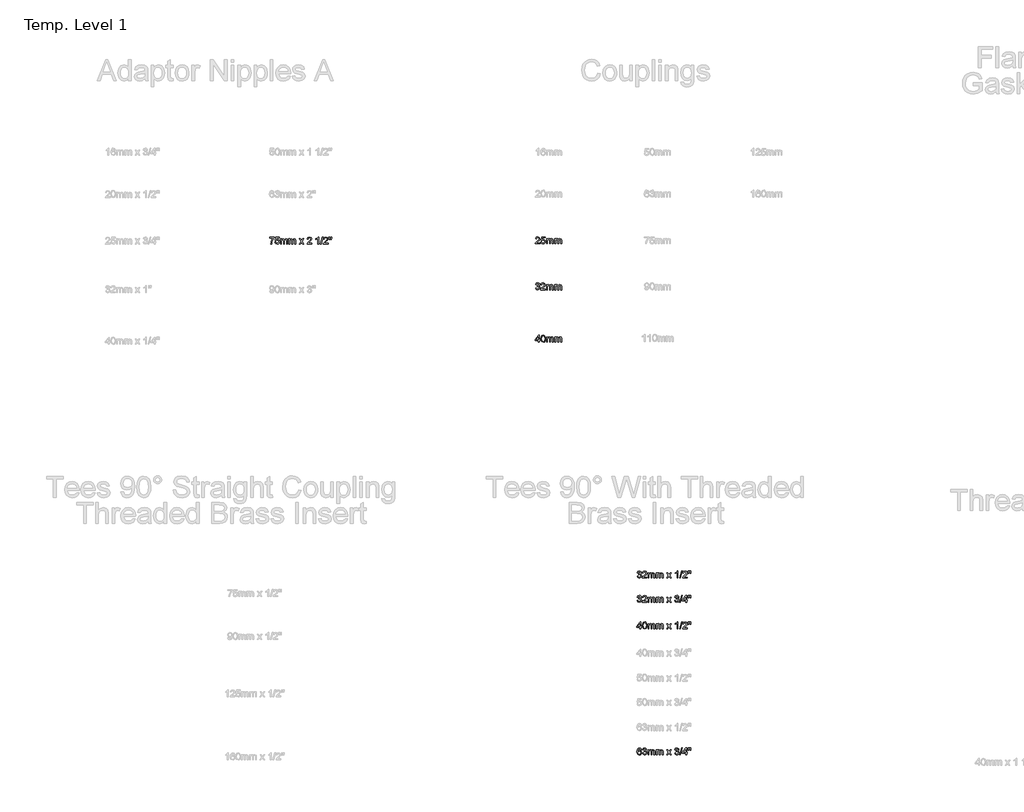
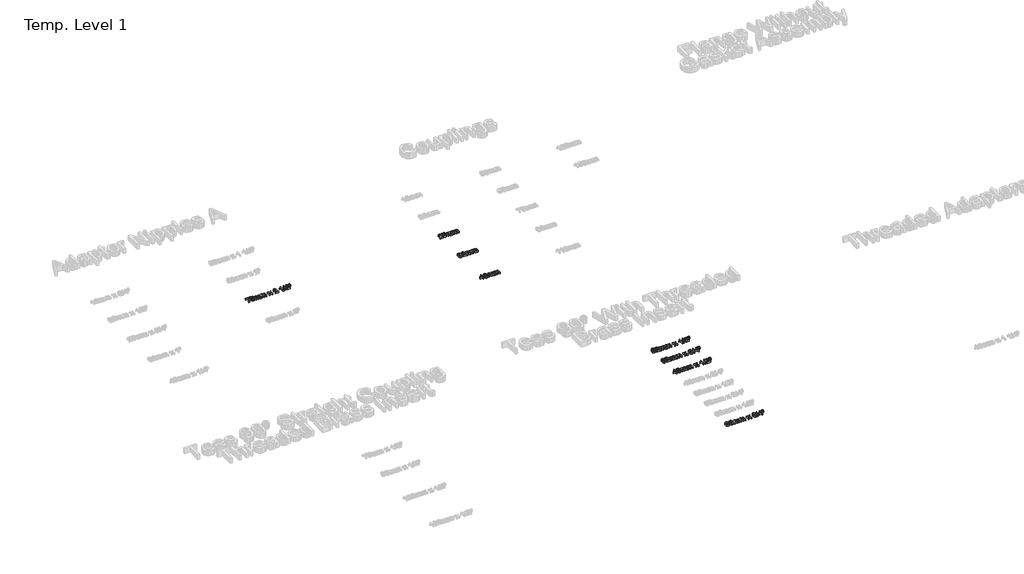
# One storey, part 18 of 62: 8 proxies.
"""IFC4 building model written with IfcOpenShell, lengths in millimetres."""

from ifc_helpers import new_model, si_unit, origin, origin_with_axes, place, context, project, spatial, polyline, outline, extrude, element, save

model = new_model("IFC4")

# Units and contexts
model_context = context("Model", 3, world=origin())
ifc_project = project(units=[si_unit("LENGTHUNIT", "METRE", prefix="MILLI")], contexts=[model_context])

# Site, building, storey
site = spatial("IfcSite", under=ifc_project)
building = spatial("IfcBuilding", under=site)
storey = spatial("IfcBuildingStorey", under=building, Name="Temp. Level 1", Elevation=0.0)

# Proxies
placement = place(None, origin())
element("IfcBuildingElementProxy", 1, Name="50mm Arial", ObjectType="50mm Arial", at=placement, inside=storey, context=model_context, shape_type="SweptSolid", body=[
    extrude(outline(polyline([(15795.8008487, -8167.8908247), (15795.8008487, -8161.7369786), (15828.108541, -8161.7369786), (15828.108541, -8166.7129401), (15818.9438775, -8179.9521228), (15811.9306564, -8196.8211132), (15809.6470025, -8210.198517), (15803.4931564, -8210.198517), (15805.9390698, -8196.3163055), (15812.6518102, -8180.6251997), (15821.9546948, -8167.8908247), (15795.8008487, -8167.8908247)])), origin_with_axes(), (0.0, 0.0, 1.0), 15.0),
    extrude(outline(polyline([(15833.4931564, -8197.1215939), (15839.6470025, -8196.3523632), (15842.7479641, -8202.6925074), (15849.1782525, -8204.8139016), (15856.8945987, -8201.8631805), (15859.6470025, -8194.0326516), (15857.0688775, -8186.7249593), (15849.2744064, -8184.0446709), (15843.8717621, -8185.1143824), (15840.4162333, -8187.8908247), (15834.2623871, -8187.1215939), (15839.6470025, -8161.7369786), (15863.4931564, -8161.7369786), (15863.4931564, -8167.8908247), (15844.6229641, -8167.8908247), (15841.9907525, -8181.448517), (15850.9931564, -8177.8908247), (15861.5159929, -8182.3018824), (15865.8008487, -8193.6480362), (15861.9426756, -8205.0663055), (15856.4018102, -8209.4923872), (15849.1542141, -8210.9677478), (15838.2948391, -8207.1756805), (15833.4931564, -8197.1215939)])), origin_with_axes(), (0.0, 0.0, 1.0), 15.0),
    extrude(outline(polyline([(15872.7239256, -8210.198517), (15872.7239256, -8174.0446709), (15878.8777718, -8174.0446709), (15878.8777718, -8179.9941901), (15883.108541, -8175.120392), (15889.1301756, -8173.2754401), (15895.296041, -8175.1564497), (15898.6854641, -8180.4268824), (15903.4871468, -8175.0633007), (15909.5508487, -8173.2754401), (15917.5977237, -8176.2501997), (15920.4162333, -8185.4148632), (15920.4162333, -8210.198517), (15914.2623871, -8210.198517), (15914.2623871, -8188.0590939), (15913.6914737, -8182.9208728), (15911.624166, -8180.3908247), (15908.108541, -8179.4292862), (15902.0568583, -8181.8932286), (15899.6470025, -8189.7898632), (15899.6470025, -8210.198517), (15893.4931564, -8210.198517), (15893.4931564, -8187.3739978), (15892.0688775, -8181.4124593), (15887.3994064, -8179.4292862), (15882.8441179, -8180.7514016), (15879.8152718, -8184.6215939), (15878.8777718, -8191.9653439), (15878.8777718, -8210.198517), (15872.7239256, -8210.198517)])), origin_with_axes(), (0.0, 0.0, 1.0), 15.0),
    extrude(outline(polyline([(15929.6470025, -8210.198517), (15929.6470025, -8174.0446709), (15935.8008487, -8174.0446709), (15935.8008487, -8179.9941901), (15940.0316179, -8175.120392), (15946.0532525, -8173.2754401), (15952.2191179, -8175.1564497), (15955.608541, -8180.4268824), (15960.4102237, -8175.0633007), (15966.4739256, -8173.2754401), (15974.5208006, -8176.2501997), (15977.3393102, -8185.4148632), (15977.3393102, -8210.198517), (15971.1854641, -8210.198517), (15971.1854641, -8188.0590939), (15970.6145506, -8182.9208728), (15968.5472429, -8180.3908247), (15965.0316179, -8179.4292862), (15958.9799352, -8181.8932286), (15956.5700795, -8189.7898632), (15956.5700795, -8210.198517), (15950.4162333, -8210.198517), (15950.4162333, -8187.3739978), (15948.9919545, -8181.4124593), (15944.3224833, -8179.4292862), (15939.7671948, -8180.7514016), (15936.7383487, -8184.6215939), (15935.8008487, -8191.9653439), (15935.8008487, -8210.198517), (15929.6470025, -8210.198517)])), origin_with_axes(), (0.0, 0.0, 1.0), 15.0),
    extrude(outline(polyline([(16001.9546948, -8210.198517), (16015.1037333, -8192.0254401), (16002.7239256, -8174.0446709), (16010.1277718, -8174.0446709), (16016.1013295, -8182.698517), (16018.889791, -8186.7850555), (16021.3056564, -8183.4437093), (16028.108541, -8174.0446709), (16035.5123871, -8174.0446709), (16022.5075795, -8192.0254401), (16035.0316179, -8210.198517), (16027.6277718, -8210.198517), (16020.0917141, -8199.2730362), (16018.7095025, -8197.2778439), (16009.358541, -8210.198517), (16001.9546948, -8210.198517)])), origin_with_axes(), (0.0, 0.0, 1.0), 15.0),
    extrude(outline(polyline([(16089.6470025, -8204.0446709), (16089.6470025, -8210.198517), (16057.3393102, -8210.198517), (16058.0003679, -8205.9557286), (16061.7383487, -8199.4232766), (16069.4426756, -8192.2898632), (16080.0676756, -8182.0374593), (16082.7239256, -8175.0663055), (16080.217916, -8169.4232766), (16073.6734448, -8167.1215939), (16066.8525314, -8169.3691901), (16064.2623871, -8175.5831324), (16058.108541, -8174.8139016), (16062.8260891, -8164.5134209), (16073.8056564, -8160.9677478), (16084.8212814, -8164.9100555), (16088.8777718, -8174.6937093), (16087.7840218, -8180.5290459), (16084.1482045, -8186.5626997), (16075.3320987, -8194.9941901), (16068.2527718, -8200.9136612), (16065.4763295, -8204.0446709), (16089.6470025, -8204.0446709)])), origin_with_axes(), (0.0, 0.0, 1.0), 15.0),
    extrude(outline(polyline([(16138.108541, -8210.198517), (16131.9546948, -8210.198517), (16131.9546948, -8171.8331324), (16126.1253679, -8175.9857766), (16119.6470025, -8179.0927478), (16119.6470025, -8173.2754401), (16128.6674352, -8167.5182286), (16134.1421948, -8160.9677478), (16138.108541, -8160.9677478), (16138.108541, -8210.198517)])), origin_with_axes(), (0.0, 0.0, 1.0), 15.0),
    extrude(outline(polyline([(16149.6470025, -8210.198517), (16163.4931564, -8160.9677478), (16169.046041, -8160.9677478), (16155.1998871, -8210.198517), (16149.6470025, -8210.198517)])), origin_with_axes(), (0.0, 0.0, 1.0), 15.0),
    extrude(outline(polyline([(16203.4931564, -8204.0446709), (16203.4931564, -8210.198517), (16171.1854641, -8210.198517), (16171.8465218, -8205.9557286), (16175.5845025, -8199.4232766), (16183.2888295, -8192.2898632), (16193.9138295, -8182.0374593), (16196.5700795, -8175.0663055), (16194.0640698, -8169.4232766), (16187.5195987, -8167.1215939), (16180.6986852, -8169.3691901), (16178.108541, -8175.5831324), (16171.9546948, -8174.8139016), (16176.6722429, -8164.5134209), (16187.6518102, -8160.9677478), (16198.6674352, -8164.9100555), (16202.7239256, -8174.6937093), (16201.6301756, -8180.5290459), (16197.9943583, -8186.5626997), (16189.1782525, -8194.9941901), (16182.0989256, -8200.9136612), (16179.3224833, -8204.0446709), (16203.4931564, -8204.0446709)])), origin_with_axes(), (0.0, 0.0, 1.0), 15.0),
    extrude(outline(polyline([(16223.421041, -8178.6600555), (16221.9546948, -8169.1528439), (16221.9546948, -8160.9677478), (16228.108541, -8160.9677478), (16228.108541, -8169.1528439), (16226.6662333, -8178.6600555), (16223.421041, -8178.6600555)])), origin_with_axes(), (0.0, 0.0, 1.0), 15.0),
    extrude(outline(polyline([(16211.1494064, -8178.6600555), (16209.6470025, -8169.1528439), (16209.6470025, -8160.9677478), (16215.8008487, -8160.9677478), (16215.8008487, -8169.1528439), (16214.4546948, -8178.6600555), (16211.1494064, -8178.6600555)])), origin_with_axes(), (0.0, 0.0, 1.0), 15.0),
])
element("IfcBuildingElementProxy", 2, Name="50mm Arial", ObjectType="50mm Arial", at=placement, inside=storey, context=model_context, shape_type="SweptSolid", body=[
    extrude(outline(polyline([(17682.7745802, -8202.9089258), (17682.7745802, -8209.0627719), (17650.4668879, -8209.0627719), (17651.1279456, -8204.8199835), (17654.8659263, -8198.2875315), (17662.5702533, -8191.1541181), (17673.1952533, -8180.9017142), (17675.8515033, -8173.9305604), (17673.3454936, -8168.2875315), (17666.8010225, -8165.9858488), (17659.980109, -8168.233445), (17657.3899648, -8174.4473873), (17651.2361186, -8173.6781565), (17655.9536667, -8163.3776758), (17666.933234, -8159.8320027), (17677.948859, -8163.7743104), (17682.0053494, -8173.5579642), (17680.9115994, -8179.3933008), (17677.2757821, -8185.4269546), (17668.4596763, -8193.858445), (17661.3803494, -8199.7779161), (17658.6039071, -8202.9089258), (17682.7745802, -8202.9089258)])), origin_with_axes(), (0.0, 0.0, 1.0), 15.0),
    extrude(outline(polyline([(17688.9284263, -8195.9858488), (17695.0822725, -8195.2166181), (17698.183234, -8201.5567623), (17704.6135225, -8203.6781565), (17712.3298686, -8200.7274354), (17715.0822725, -8192.8969065), (17712.5041475, -8185.5892142), (17704.7096763, -8182.9089258), (17699.3070321, -8183.9786373), (17695.8515033, -8186.7550796), (17689.6976571, -8185.9858488), (17695.0822725, -8160.6012335), (17718.9284263, -8160.6012335), (17718.9284263, -8166.7550796), (17700.058234, -8166.7550796), (17697.4260225, -8180.3127719), (17706.4284263, -8176.7550796), (17716.9512629, -8181.1661373), (17721.2361186, -8192.5122911), (17717.3779456, -8203.9305604), (17711.8370802, -8208.3566421), (17704.589484, -8209.8320027), (17693.730109, -8206.0399354), (17688.9284263, -8195.9858488)])), origin_with_axes(), (0.0, 0.0, 1.0), 15.0),
    extrude(outline(polyline([(17728.1591956, -8209.0627719), (17728.1591956, -8172.9089258), (17734.3130417, -8172.9089258), (17734.3130417, -8178.858445), (17738.5438109, -8173.9846469), (17744.5654456, -8172.139695), (17750.7313109, -8174.0207046), (17754.120734, -8179.2911373), (17758.9224167, -8173.9275556), (17764.9861186, -8172.139695), (17773.0329936, -8175.1144546), (17775.8515033, -8184.2791181), (17775.8515033, -8209.0627719), (17769.6976571, -8209.0627719), (17769.6976571, -8186.9233488), (17769.1267436, -8181.7851277), (17767.0594359, -8179.2550796), (17763.5438109, -8178.2935411), (17757.4921283, -8180.7574835), (17755.0822725, -8188.6541181), (17755.0822725, -8209.0627719), (17748.9284263, -8209.0627719), (17748.9284263, -8186.2382527), (17747.5041475, -8180.2767142), (17742.8346763, -8178.2935411), (17738.2793879, -8179.6156565), (17735.2505417, -8183.4858488), (17734.3130417, -8190.8295988), (17734.3130417, -8209.0627719), (17728.1591956, -8209.0627719)])), origin_with_axes(), (0.0, 0.0, 1.0), 15.0),
    extrude(outline(polyline([(17785.0822725, -8209.0627719), (17785.0822725, -8172.9089258), (17791.2361186, -8172.9089258), (17791.2361186, -8178.858445), (17795.4668879, -8173.9846469), (17801.4885225, -8172.139695), (17807.6543879, -8174.0207046), (17811.0438109, -8179.2911373), (17815.8454936, -8173.9275556), (17821.9091956, -8172.139695), (17829.9560706, -8175.1144546), (17832.7745802, -8184.2791181), (17832.7745802, -8209.0627719), (17826.620734, -8209.0627719), (17826.620734, -8186.9233488), (17826.0498206, -8181.7851277), (17823.9825129, -8179.2550796), (17820.4668879, -8178.2935411), (17814.4152052, -8180.7574835), (17812.0053494, -8188.6541181), (17812.0053494, -8209.0627719), (17805.8515033, -8209.0627719), (17805.8515033, -8186.2382527), (17804.4272244, -8180.2767142), (17799.7577533, -8178.2935411), (17795.2024648, -8179.6156565), (17792.1736186, -8183.4858488), (17791.2361186, -8190.8295988), (17791.2361186, -8209.0627719), (17785.0822725, -8209.0627719)])), origin_with_axes(), (0.0, 0.0, 1.0), 15.0),
])
element("IfcBuildingElementProxy", 3, Name="50mm Arial", ObjectType="50mm Arial", at=placement, inside=storey, context=model_context, shape_type="SweptSolid", body=[
    extrude(outline(polyline([(17651.2361186, -8517.1215939), (17657.3899648, -8516.3523632), (17660.7853975, -8522.8307286), (17667.1375609, -8524.8139016), (17674.6135225, -8522.0855362), (17677.3899648, -8515.3307286), (17674.6375609, -8508.9665459), (17667.6423686, -8506.448517), (17663.3274648, -8507.1215939), (17664.0125609, -8500.9677478), (17671.9813109, -8499.2730362), (17675.0822725, -8493.8403439), (17672.8346763, -8489.026642), (17667.0414071, -8487.1215939), (17661.1760225, -8489.0446709), (17658.1591956, -8494.8139016), (17652.0053494, -8494.0446709), (17657.0414071, -8484.3932286), (17666.8250609, -8480.9677478), (17674.2469359, -8482.6564497), (17679.4392436, -8487.2718343), (17681.2361186, -8493.479767), (17679.5293879, -8499.1528439), (17674.4813109, -8503.2273632), (17681.1880417, -8507.4340939), (17683.5438109, -8515.4389016), (17678.8322725, -8526.448517), (17666.9212148, -8530.9677478), (17656.1279456, -8527.1095747), (17651.2361186, -8517.1215939)])), origin_with_axes(), (0.0, 0.0, 1.0), 15.0),
    extrude(outline(polyline([(17720.4668879, -8524.0446709), (17720.4668879, -8530.198517), (17688.1591956, -8530.198517), (17688.8202533, -8525.9557286), (17692.558234, -8519.4232766), (17700.2625609, -8512.2898632), (17710.8875609, -8502.0374593), (17713.5438109, -8495.0663055), (17711.0378013, -8489.4232766), (17704.4933302, -8487.1215939), (17697.6724167, -8489.3691901), (17695.0822725, -8495.5831324), (17688.9284263, -8494.8139016), (17693.6459744, -8484.5134209), (17704.6255417, -8480.9677478), (17715.6411667, -8484.9100555), (17719.6976571, -8494.6937093), (17718.6039071, -8500.5290459), (17714.9680898, -8506.5626997), (17706.151984, -8514.9941901), (17699.0726571, -8520.9136612), (17696.2962148, -8524.0446709), (17720.4668879, -8524.0446709)])), origin_with_axes(), (0.0, 0.0, 1.0), 15.0),
    extrude(outline(polyline([(17728.1591956, -8530.198517), (17728.1591956, -8494.0446709), (17734.3130417, -8494.0446709), (17734.3130417, -8499.9941901), (17738.5438109, -8495.120392), (17744.5654456, -8493.2754401), (17750.7313109, -8495.1564497), (17754.120734, -8500.4268824), (17758.9224167, -8495.0633007), (17764.9861186, -8493.2754401), (17773.0329936, -8496.2501997), (17775.8515033, -8505.4148632), (17775.8515033, -8530.198517), (17769.6976571, -8530.198517), (17769.6976571, -8508.0590939), (17769.1267436, -8502.9208728), (17767.0594359, -8500.3908247), (17763.5438109, -8499.4292862), (17757.4921283, -8501.8932286), (17755.0822725, -8509.7898632), (17755.0822725, -8530.198517), (17748.9284263, -8530.198517), (17748.9284263, -8507.3739978), (17747.5041475, -8501.4124593), (17742.8346763, -8499.4292862), (17738.2793879, -8500.7514016), (17735.2505417, -8504.6215939), (17734.3130417, -8511.9653439), (17734.3130417, -8530.198517), (17728.1591956, -8530.198517)])), origin_with_axes(), (0.0, 0.0, 1.0), 15.0),
    extrude(outline(polyline([(17785.0822725, -8530.198517), (17785.0822725, -8494.0446709), (17791.2361186, -8494.0446709), (17791.2361186, -8499.9941901), (17795.4668879, -8495.120392), (17801.4885225, -8493.2754401), (17807.6543879, -8495.1564497), (17811.0438109, -8500.4268824), (17815.8454936, -8495.0633007), (17821.9091956, -8493.2754401), (17829.9560706, -8496.2501997), (17832.7745802, -8505.4148632), (17832.7745802, -8530.198517), (17826.620734, -8530.198517), (17826.620734, -8508.0590939), (17826.0498206, -8502.9208728), (17823.9825129, -8500.3908247), (17820.4668879, -8499.4292862), (17814.4152052, -8501.8932286), (17812.0053494, -8509.7898632), (17812.0053494, -8530.198517), (17805.8515033, -8530.198517), (17805.8515033, -8507.3739978), (17804.4272244, -8501.4124593), (17799.7577533, -8499.4292862), (17795.2024648, -8500.7514016), (17792.1736186, -8504.6215939), (17791.2361186, -8511.9653439), (17791.2361186, -8530.198517), (17785.0822725, -8530.198517)])), origin_with_axes(), (0.0, 0.0, 1.0), 15.0),
])
element("IfcBuildingElementProxy", 4, Name="50mm Arial", ObjectType="50mm Arial", at=placement, inside=storey, context=model_context, shape_type="SweptSolid", body=[
    extrude(outline(polyline([(17671.2361186, -8895.198517), (17671.2361186, -8883.6600555), (17648.9284263, -8883.6600555), (17648.9284263, -8877.5062093), (17672.7745802, -8846.7369786), (17677.3899648, -8846.7369786), (17677.3899648, -8877.5062093), (17683.5438109, -8877.5062093), (17683.5438109, -8883.6600555), (17677.3899648, -8883.6600555), (17677.3899648, -8895.198517), (17671.2361186, -8895.198517)]), holes=[polyline([(17671.2361186, -8877.5062093), (17671.2361186, -8858.4917862), (17656.5005417, -8877.5062093), (17671.2361186, -8877.5062093)])]), origin_with_axes(), (0.0, 0.0, 1.0), 15.0),
    extrude(outline(polyline([(17688.9284263, -8870.979767), (17690.7373206, -8856.8151036), (17696.1099167, -8848.6480362), (17705.0822725, -8845.9677478), (17712.2697725, -8847.5542862), (17717.2337148, -8852.1276036), (17720.1183302, -8859.4112574), (17721.2361186, -8870.979767), (17719.4452533, -8885.0843343), (17714.0906859, -8893.2694305), (17705.0822725, -8895.9677478), (17693.8322725, -8891.2802478), (17690.1543879, -8882.9539257), (17688.9284263, -8870.979767)]), holes=[polyline([(17695.0822725, -8870.9677478), (17697.9668879, -8886.2501997), (17705.0822725, -8889.8139016), (17712.1976571, -8886.2381805), (17715.0822725, -8870.9677478), (17712.2938109, -8855.8595747), (17705.0101571, -8852.1215939), (17698.0630417, -8855.4148632), (17695.0822725, -8870.9677478)])]), origin_with_axes(), (0.0, 0.0, 1.0), 15.0),
    extrude(outline(polyline([(17728.1591956, -8895.198517), (17728.1591956, -8859.0446709), (17734.3130417, -8859.0446709), (17734.3130417, -8864.9941901), (17738.5438109, -8860.120392), (17744.5654456, -8858.2754401), (17750.7313109, -8860.1564497), (17754.120734, -8865.4268824), (17758.9224167, -8860.0633007), (17764.9861186, -8858.2754401), (17773.0329936, -8861.2501997), (17775.8515033, -8870.4148632), (17775.8515033, -8895.198517), (17769.6976571, -8895.198517), (17769.6976571, -8873.0590939), (17769.1267436, -8867.9208728), (17767.0594359, -8865.3908247), (17763.5438109, -8864.4292862), (17757.4921283, -8866.8932286), (17755.0822725, -8874.7898632), (17755.0822725, -8895.198517), (17748.9284263, -8895.198517), (17748.9284263, -8872.3739978), (17747.5041475, -8866.4124593), (17742.8346763, -8864.4292862), (17738.2793879, -8865.7514016), (17735.2505417, -8869.6215939), (17734.3130417, -8876.9653439), (17734.3130417, -8895.198517), (17728.1591956, -8895.198517)])), origin_with_axes(), (0.0, 0.0, 1.0), 15.0),
    extrude(outline(polyline([(17785.0822725, -8895.198517), (17785.0822725, -8859.0446709), (17791.2361186, -8859.0446709), (17791.2361186, -8864.9941901), (17795.4668879, -8860.120392), (17801.4885225, -8858.2754401), (17807.6543879, -8860.1564497), (17811.0438109, -8865.4268824), (17815.8454936, -8860.0633007), (17821.9091956, -8858.2754401), (17829.9560706, -8861.2501997), (17832.7745802, -8870.4148632), (17832.7745802, -8895.198517), (17826.620734, -8895.198517), (17826.620734, -8873.0590939), (17826.0498206, -8867.9208728), (17823.9825129, -8865.3908247), (17820.4668879, -8864.4292862), (17814.4152052, -8866.8932286), (17812.0053494, -8874.7898632), (17812.0053494, -8895.198517), (17805.8515033, -8895.198517), (17805.8515033, -8872.3739978), (17804.4272244, -8866.4124593), (17799.7577533, -8864.4292862), (17795.2024648, -8865.7514016), (17792.1736186, -8869.6215939), (17791.2361186, -8876.9653439), (17791.2361186, -8895.198517), (17785.0822725, -8895.198517)])), origin_with_axes(), (0.0, 0.0, 1.0), 15.0),
])
element("IfcBuildingElementProxy", 5, Name="50mm Arial", ObjectType="50mm Arial", at=placement, inside=storey, context=model_context, shape_type="SweptSolid", body=[
    extrude(outline(polyline([(18359.5497295, -10529.2249519), (18365.7035757, -10528.4557211), (18369.0990084, -10534.9340865), (18375.4511718, -10536.9172596), (18382.9271334, -10534.1888942), (18385.7035757, -10527.4340865), (18382.9511718, -10521.0699038), (18375.9559795, -10518.551875), (18371.6410757, -10519.2249519), (18372.3261718, -10513.0711057), (18380.2949218, -10511.3763942), (18383.3958834, -10505.9437019), (18381.1482872, -10501.13), (18375.355018, -10499.2249519), (18369.4896334, -10501.1480288), (18366.4728064, -10506.9172596), (18360.3189603, -10506.1480288), (18365.355018, -10496.4965865), (18375.1386718, -10493.0711057), (18382.5605468, -10494.7598077), (18387.7528545, -10499.3751923), (18389.5497295, -10505.583125), (18387.8429987, -10511.2562019), (18382.7949218, -10515.3307211), (18389.5016526, -10519.5374519), (18391.8574218, -10527.5422596), (18387.1458834, -10538.551875), (18375.2348257, -10543.0711057), (18364.4415564, -10539.2129327), (18359.5497295, -10529.2249519)])), origin_with_axes(), (0.0, 0.0, 1.0), 15.0),
    extrude(outline(polyline([(18428.7804987, -10536.1480288), (18428.7804987, -10542.301875), (18396.4728064, -10542.301875), (18397.1338641, -10538.0590865), (18400.8718449, -10531.5266346), (18408.5761718, -10524.3932211), (18419.2011718, -10514.1408173), (18421.8574218, -10507.1696634), (18419.3514122, -10501.5266346), (18412.8069411, -10499.2249519), (18405.9860276, -10501.4725481), (18403.3958834, -10507.6864904), (18397.2420372, -10506.9172596), (18401.9595853, -10496.6167788), (18412.9391526, -10493.0711057), (18423.9547776, -10497.0134134), (18428.011268, -10506.7970673), (18426.917518, -10512.6324038), (18423.2817007, -10518.6660577), (18414.4655949, -10527.0975481), (18407.386268, -10533.0170192), (18404.6098257, -10536.1480288), (18428.7804987, -10536.1480288)])), origin_with_axes(), (0.0, 0.0, 1.0), 15.0),
    extrude(outline(polyline([(18436.4728064, -10542.301875), (18436.4728064, -10506.1480288), (18442.6266526, -10506.1480288), (18442.6266526, -10512.0975481), (18446.8574218, -10507.22375), (18452.8790564, -10505.3787981), (18459.0449218, -10507.2598077), (18462.4343449, -10512.5302404), (18467.2360276, -10507.1666586), (18473.2997295, -10505.3787981), (18481.3466045, -10508.3535577), (18484.1651141, -10517.5182211), (18484.1651141, -10542.301875), (18478.011268, -10542.301875), (18478.011268, -10520.1624519), (18477.4403545, -10515.0242307), (18475.3730468, -10512.4941827), (18471.8574218, -10511.5326442), (18465.8057391, -10513.9965865), (18463.3958834, -10521.8932211), (18463.3958834, -10542.301875), (18457.2420372, -10542.301875), (18457.2420372, -10519.4773557), (18455.8177584, -10513.5158173), (18451.1482872, -10511.5326442), (18446.5929987, -10512.8547596), (18443.5641526, -10516.7249519), (18442.6266526, -10524.0687019), (18442.6266526, -10542.301875), (18436.4728064, -10542.301875)])), origin_with_axes(), (0.0, 0.0, 1.0), 15.0),
    extrude(outline(polyline([(18493.3958834, -10542.301875), (18493.3958834, -10506.1480288), (18499.5497295, -10506.1480288), (18499.5497295, -10512.0975481), (18503.7804987, -10507.22375), (18509.8021334, -10505.3787981), (18515.9679987, -10507.2598077), (18519.3574218, -10512.5302404), (18524.1591045, -10507.1666586), (18530.2228064, -10505.3787981), (18538.2696814, -10508.3535577), (18541.0881911, -10517.5182211), (18541.0881911, -10542.301875), (18534.9343449, -10542.301875), (18534.9343449, -10520.1624519), (18534.3634314, -10515.0242307), (18532.2961237, -10512.4941827), (18528.7804987, -10511.5326442), (18522.7288161, -10513.9965865), (18520.3189603, -10521.8932211), (18520.3189603, -10542.301875), (18514.1651141, -10542.301875), (18514.1651141, -10519.4773557), (18512.7408353, -10513.5158173), (18508.0713641, -10511.5326442), (18503.5160757, -10512.8547596), (18500.4872295, -10516.7249519), (18499.5497295, -10524.0687019), (18499.5497295, -10542.301875), (18493.3958834, -10542.301875)])), origin_with_axes(), (0.0, 0.0, 1.0), 15.0),
    extrude(outline(polyline([(18565.7035757, -10542.301875), (18578.8526141, -10524.1287981), (18566.4728064, -10506.1480288), (18573.8766526, -10506.1480288), (18579.8502103, -10514.801875), (18582.6386718, -10518.8884134), (18585.0545372, -10515.5470673), (18591.8574218, -10506.1480288), (18599.261268, -10506.1480288), (18586.2564603, -10524.1287981), (18598.7804987, -10542.301875), (18591.3766526, -10542.301875), (18583.8405949, -10531.3763942), (18582.4583834, -10529.3812019), (18573.1074218, -10542.301875), (18565.7035757, -10542.301875)])), origin_with_axes(), (0.0, 0.0, 1.0), 15.0),
    extrude(outline(polyline([(18644.9343449, -10542.301875), (18638.7804987, -10542.301875), (18638.7804987, -10503.9364904), (18632.9511718, -10508.0891346), (18626.4728064, -10511.1961057), (18626.4728064, -10505.3787981), (18635.4932391, -10499.6215865), (18640.9679987, -10493.0711057), (18644.9343449, -10493.0711057), (18644.9343449, -10542.301875)])), origin_with_axes(), (0.0, 0.0, 1.0), 15.0),
    extrude(outline(polyline([(18656.4728064, -10542.301875), (18670.3189603, -10493.0711057), (18675.8718449, -10493.0711057), (18662.0256911, -10542.301875), (18656.4728064, -10542.301875)])), origin_with_axes(), (0.0, 0.0, 1.0), 15.0),
    extrude(outline(polyline([(18710.3189603, -10536.1480288), (18710.3189603, -10542.301875), (18678.011268, -10542.301875), (18678.6723257, -10538.0590865), (18682.4103064, -10531.5266346), (18690.1146334, -10524.3932211), (18700.7396334, -10514.1408173), (18703.3958834, -10507.1696634), (18700.8898737, -10501.5266346), (18694.3454026, -10499.2249519), (18687.5244891, -10501.4725481), (18684.9343449, -10507.6864904), (18678.7804987, -10506.9172596), (18683.4980468, -10496.6167788), (18694.4776141, -10493.0711057), (18705.4932391, -10497.0134134), (18709.5497295, -10506.7970673), (18708.4559795, -10512.6324038), (18704.8201622, -10518.6660577), (18696.0040564, -10527.0975481), (18688.9247295, -10533.0170192), (18686.1482872, -10536.1480288), (18710.3189603, -10536.1480288)])), origin_with_axes(), (0.0, 0.0, 1.0), 15.0),
    extrude(outline(polyline([(18730.2468449, -10510.7634134), (18728.7804987, -10501.2562019), (18728.7804987, -10493.0711057), (18734.9343449, -10493.0711057), (18734.9343449, -10501.2562019), (18733.4920372, -10510.7634134), (18730.2468449, -10510.7634134)])), origin_with_axes(), (0.0, 0.0, 1.0), 15.0),
    extrude(outline(polyline([(18717.9752103, -10510.7634134), (18716.4728064, -10501.2562019), (18716.4728064, -10493.0711057), (18722.6266526, -10493.0711057), (18722.6266526, -10501.2562019), (18721.2804987, -10510.7634134), (18717.9752103, -10510.7634134)])), origin_with_axes(), (0.0, 0.0, 1.0), 15.0),
])
element("IfcBuildingElementProxy", 6, Name="50mm Arial", ObjectType="50mm Arial", at=placement, inside=storey, context=model_context, shape_type="SweptSolid", body=[
    extrude(outline(polyline([(18359.5497295, -10699.2249519), (18365.7035757, -10698.4557211), (18369.0990084, -10704.9340865), (18375.4511718, -10706.9172596), (18382.9271334, -10704.1888942), (18385.7035757, -10697.4340865), (18382.9511718, -10691.0699038), (18375.9559795, -10688.551875), (18371.6410757, -10689.2249519), (18372.3261718, -10683.0711057), (18380.2949218, -10681.3763942), (18383.3958834, -10675.9437019), (18381.1482872, -10671.13), (18375.355018, -10669.2249519), (18369.4896334, -10671.1480288), (18366.4728064, -10676.9172596), (18360.3189603, -10676.1480288), (18365.355018, -10666.4965865), (18375.1386718, -10663.0711057), (18382.5605468, -10664.7598077), (18387.7528545, -10669.3751923), (18389.5497295, -10675.583125), (18387.8429987, -10681.2562019), (18382.7949218, -10685.3307211), (18389.5016526, -10689.5374519), (18391.8574218, -10697.5422596), (18387.1458834, -10708.551875), (18375.2348257, -10713.0711057), (18364.4415564, -10709.2129327), (18359.5497295, -10699.2249519)])), origin_with_axes(), (0.0, 0.0, 1.0), 15.0),
    extrude(outline(polyline([(18428.7804987, -10706.1480288), (18428.7804987, -10712.301875), (18396.4728064, -10712.301875), (18397.1338641, -10708.0590865), (18400.8718449, -10701.5266346), (18408.5761718, -10694.3932211), (18419.2011718, -10684.1408173), (18421.8574218, -10677.1696634), (18419.3514122, -10671.5266346), (18412.8069411, -10669.2249519), (18405.9860276, -10671.4725481), (18403.3958834, -10677.6864904), (18397.2420372, -10676.9172596), (18401.9595853, -10666.6167788), (18412.9391526, -10663.0711057), (18423.9547776, -10667.0134134), (18428.011268, -10676.7970673), (18426.917518, -10682.6324038), (18423.2817007, -10688.6660577), (18414.4655949, -10697.0975481), (18407.386268, -10703.0170192), (18404.6098257, -10706.1480288), (18428.7804987, -10706.1480288)])), origin_with_axes(), (0.0, 0.0, 1.0), 15.0),
    extrude(outline(polyline([(18436.4728064, -10712.301875), (18436.4728064, -10676.1480288), (18442.6266526, -10676.1480288), (18442.6266526, -10682.0975481), (18446.8574218, -10677.22375), (18452.8790564, -10675.3787981), (18459.0449218, -10677.2598077), (18462.4343449, -10682.5302404), (18467.2360276, -10677.1666586), (18473.2997295, -10675.3787981), (18481.3466045, -10678.3535577), (18484.1651141, -10687.5182211), (18484.1651141, -10712.301875), (18478.011268, -10712.301875), (18478.011268, -10690.1624519), (18477.4403545, -10685.0242307), (18475.3730468, -10682.4941827), (18471.8574218, -10681.5326442), (18465.8057391, -10683.9965865), (18463.3958834, -10691.8932211), (18463.3958834, -10712.301875), (18457.2420372, -10712.301875), (18457.2420372, -10689.4773557), (18455.8177584, -10683.5158173), (18451.1482872, -10681.5326442), (18446.5929987, -10682.8547596), (18443.5641526, -10686.7249519), (18442.6266526, -10694.0687019), (18442.6266526, -10712.301875), (18436.4728064, -10712.301875)])), origin_with_axes(), (0.0, 0.0, 1.0), 15.0),
    extrude(outline(polyline([(18493.3958834, -10712.301875), (18493.3958834, -10676.1480288), (18499.5497295, -10676.1480288), (18499.5497295, -10682.0975481), (18503.7804987, -10677.22375), (18509.8021334, -10675.3787981), (18515.9679987, -10677.2598077), (18519.3574218, -10682.5302404), (18524.1591045, -10677.1666586), (18530.2228064, -10675.3787981), (18538.2696814, -10678.3535577), (18541.0881911, -10687.5182211), (18541.0881911, -10712.301875), (18534.9343449, -10712.301875), (18534.9343449, -10690.1624519), (18534.3634314, -10685.0242307), (18532.2961237, -10682.4941827), (18528.7804987, -10681.5326442), (18522.7288161, -10683.9965865), (18520.3189603, -10691.8932211), (18520.3189603, -10712.301875), (18514.1651141, -10712.301875), (18514.1651141, -10689.4773557), (18512.7408353, -10683.5158173), (18508.0713641, -10681.5326442), (18503.5160757, -10682.8547596), (18500.4872295, -10686.7249519), (18499.5497295, -10694.0687019), (18499.5497295, -10712.301875), (18493.3958834, -10712.301875)])), origin_with_axes(), (0.0, 0.0, 1.0), 15.0),
    extrude(outline(polyline([(18565.7035757, -10712.301875), (18578.8526141, -10694.1287981), (18566.4728064, -10676.1480288), (18573.8766526, -10676.1480288), (18579.8502103, -10684.801875), (18582.6386718, -10688.8884134), (18585.0545372, -10685.5470673), (18591.8574218, -10676.1480288), (18599.261268, -10676.1480288), (18586.2564603, -10694.1287981), (18598.7804987, -10712.301875), (18591.3766526, -10712.301875), (18583.8405949, -10701.3763942), (18582.4583834, -10699.3812019), (18573.1074218, -10712.301875), (18565.7035757, -10712.301875)])), origin_with_axes(), (0.0, 0.0, 1.0), 15.0),
    extrude(outline(polyline([(18621.8574218, -10699.2249519), (18628.011268, -10698.4557211), (18631.4067007, -10704.9340865), (18637.7588641, -10706.9172596), (18645.2348257, -10704.1888942), (18648.011268, -10697.4340865), (18645.2588641, -10691.0699038), (18638.2636718, -10688.551875), (18633.948768, -10689.2249519), (18634.6338641, -10683.0711057), (18642.6026141, -10681.3763942), (18645.7035757, -10675.9437019), (18643.4559795, -10671.13), (18637.6627103, -10669.2249519), (18631.7973257, -10671.1480288), (18628.7804987, -10676.9172596), (18622.6266526, -10676.1480288), (18627.6627103, -10666.4965865), (18637.4463641, -10663.0711057), (18644.8682391, -10664.7598077), (18650.0605468, -10669.3751923), (18651.8574218, -10675.583125), (18650.1506911, -10681.2562019), (18645.1026141, -10685.3307211), (18651.8093449, -10689.5374519), (18654.1651141, -10697.5422596), (18649.4535757, -10708.551875), (18637.542518, -10713.0711057), (18626.7492487, -10709.2129327), (18621.8574218, -10699.2249519)])), origin_with_axes(), (0.0, 0.0, 1.0), 15.0),
    extrude(outline(polyline([(18656.4728064, -10712.301875), (18670.3189603, -10663.0711057), (18675.8718449, -10663.0711057), (18662.0256911, -10712.301875), (18656.4728064, -10712.301875)])), origin_with_axes(), (0.0, 0.0, 1.0), 15.0),
    extrude(outline(polyline([(18698.7804987, -10712.301875), (18698.7804987, -10700.7634134), (18676.4728064, -10700.7634134), (18676.4728064, -10694.6095673), (18700.3189603, -10663.8403365), (18704.9343449, -10663.8403365), (18704.9343449, -10694.6095673), (18711.0881911, -10694.6095673), (18711.0881911, -10700.7634134), (18704.9343449, -10700.7634134), (18704.9343449, -10712.301875), (18698.7804987, -10712.301875)]), holes=[polyline([(18698.7804987, -10694.6095673), (18698.7804987, -10675.5951442), (18684.0449218, -10694.6095673), (18698.7804987, -10694.6095673)])]), origin_with_axes(), (0.0, 0.0, 1.0), 15.0),
    extrude(outline(polyline([(18730.2468449, -10680.7634134), (18728.7804987, -10671.2562019), (18728.7804987, -10663.0711057), (18734.9343449, -10663.0711057), (18734.9343449, -10671.2562019), (18733.4920372, -10680.7634134), (18730.2468449, -10680.7634134)])), origin_with_axes(), (0.0, 0.0, 1.0), 15.0),
    extrude(outline(polyline([(18717.9752103, -10680.7634134), (18716.4728064, -10671.2562019), (18716.4728064, -10663.0711057), (18722.6266526, -10663.0711057), (18722.6266526, -10671.2562019), (18721.2804987, -10680.7634134), (18717.9752103, -10680.7634134)])), origin_with_axes(), (0.0, 0.0, 1.0), 15.0),
])
element("IfcBuildingElementProxy", 7, Name="50mm Arial", ObjectType="50mm Arial", at=placement, inside=storey, context=model_context, shape_type="SweptSolid", body=[
    extrude(outline(polyline([(18379.5497295, -10897.301875), (18379.5497295, -10885.7634134), (18357.2420372, -10885.7634134), (18357.2420372, -10879.6095673), (18381.0881911, -10848.8403365), (18385.7035757, -10848.8403365), (18385.7035757, -10879.6095673), (18391.8574218, -10879.6095673), (18391.8574218, -10885.7634134), (18385.7035757, -10885.7634134), (18385.7035757, -10897.301875), (18379.5497295, -10897.301875)]), holes=[polyline([(18379.5497295, -10879.6095673), (18379.5497295, -10860.5951442), (18364.8141526, -10879.6095673), (18379.5497295, -10879.6095673)])]), origin_with_axes(), (0.0, 0.0, 1.0), 15.0),
    extrude(outline(polyline([(18397.2420372, -10873.083125), (18399.0509314, -10858.9184615), (18404.4235276, -10850.7513942), (18413.3958834, -10848.0711057), (18420.5833834, -10849.6576442), (18425.5473257, -10854.2309615), (18428.4319411, -10861.5146154), (18429.5497295, -10873.083125), (18427.7588641, -10887.1876923), (18422.4042968, -10895.3727884), (18413.3958834, -10898.0711057), (18402.1458834, -10893.3836057), (18398.4679987, -10885.0572836), (18397.2420372, -10873.083125)]), holes=[polyline([(18403.3958834, -10873.0711057), (18406.2804987, -10888.3535577), (18413.3958834, -10891.9172596), (18420.511268, -10888.3415384), (18423.3958834, -10873.0711057), (18420.6074218, -10857.9629327), (18413.323768, -10854.2249519), (18406.3766526, -10857.5182211), (18403.3958834, -10873.0711057)])]), origin_with_axes(), (0.0, 0.0, 1.0), 15.0),
    extrude(outline(polyline([(18436.4728064, -10897.301875), (18436.4728064, -10861.1480288), (18442.6266526, -10861.1480288), (18442.6266526, -10867.0975481), (18446.8574218, -10862.22375), (18452.8790564, -10860.3787981), (18459.0449218, -10862.2598077), (18462.4343449, -10867.5302404), (18467.2360276, -10862.1666586), (18473.2997295, -10860.3787981), (18481.3466045, -10863.3535577), (18484.1651141, -10872.5182211), (18484.1651141, -10897.301875), (18478.011268, -10897.301875), (18478.011268, -10875.1624519), (18477.4403545, -10870.0242307), (18475.3730468, -10867.4941827), (18471.8574218, -10866.5326442), (18465.8057391, -10868.9965865), (18463.3958834, -10876.8932211), (18463.3958834, -10897.301875), (18457.2420372, -10897.301875), (18457.2420372, -10874.4773557), (18455.8177584, -10868.5158173), (18451.1482872, -10866.5326442), (18446.5929987, -10867.8547596), (18443.5641526, -10871.7249519), (18442.6266526, -10879.0687019), (18442.6266526, -10897.301875), (18436.4728064, -10897.301875)])), origin_with_axes(), (0.0, 0.0, 1.0), 15.0),
    extrude(outline(polyline([(18493.3958834, -10897.301875), (18493.3958834, -10861.1480288), (18499.5497295, -10861.1480288), (18499.5497295, -10867.0975481), (18503.7804987, -10862.22375), (18509.8021334, -10860.3787981), (18515.9679987, -10862.2598077), (18519.3574218, -10867.5302404), (18524.1591045, -10862.1666586), (18530.2228064, -10860.3787981), (18538.2696814, -10863.3535577), (18541.0881911, -10872.5182211), (18541.0881911, -10897.301875), (18534.9343449, -10897.301875), (18534.9343449, -10875.1624519), (18534.3634314, -10870.0242307), (18532.2961237, -10867.4941827), (18528.7804987, -10866.5326442), (18522.7288161, -10868.9965865), (18520.3189603, -10876.8932211), (18520.3189603, -10897.301875), (18514.1651141, -10897.301875), (18514.1651141, -10874.4773557), (18512.7408353, -10868.5158173), (18508.0713641, -10866.5326442), (18503.5160757, -10867.8547596), (18500.4872295, -10871.7249519), (18499.5497295, -10879.0687019), (18499.5497295, -10897.301875), (18493.3958834, -10897.301875)])), origin_with_axes(), (0.0, 0.0, 1.0), 15.0),
    extrude(outline(polyline([(18565.7035757, -10897.301875), (18578.8526141, -10879.1287981), (18566.4728064, -10861.1480288), (18573.8766526, -10861.1480288), (18579.8502103, -10869.801875), (18582.6386718, -10873.8884134), (18585.0545372, -10870.5470673), (18591.8574218, -10861.1480288), (18599.261268, -10861.1480288), (18586.2564603, -10879.1287981), (18598.7804987, -10897.301875), (18591.3766526, -10897.301875), (18583.8405949, -10886.3763942), (18582.4583834, -10884.3812019), (18573.1074218, -10897.301875), (18565.7035757, -10897.301875)])), origin_with_axes(), (0.0, 0.0, 1.0), 15.0),
    extrude(outline(polyline([(18644.9343449, -10897.301875), (18638.7804987, -10897.301875), (18638.7804987, -10858.9364904), (18632.9511718, -10863.0891346), (18626.4728064, -10866.1961057), (18626.4728064, -10860.3787981), (18635.4932391, -10854.6215865), (18640.9679987, -10848.0711057), (18644.9343449, -10848.0711057), (18644.9343449, -10897.301875)])), origin_with_axes(), (0.0, 0.0, 1.0), 15.0),
    extrude(outline(polyline([(18656.4728064, -10897.301875), (18670.3189603, -10848.0711057), (18675.8718449, -10848.0711057), (18662.0256911, -10897.301875), (18656.4728064, -10897.301875)])), origin_with_axes(), (0.0, 0.0, 1.0), 15.0),
    extrude(outline(polyline([(18710.3189603, -10891.1480288), (18710.3189603, -10897.301875), (18678.011268, -10897.301875), (18678.6723257, -10893.0590865), (18682.4103064, -10886.5266346), (18690.1146334, -10879.3932211), (18700.7396334, -10869.1408173), (18703.3958834, -10862.1696634), (18700.8898737, -10856.5266346), (18694.3454026, -10854.2249519), (18687.5244891, -10856.4725481), (18684.9343449, -10862.6864904), (18678.7804987, -10861.9172596), (18683.4980468, -10851.6167788), (18694.4776141, -10848.0711057), (18705.4932391, -10852.0134134), (18709.5497295, -10861.7970673), (18708.4559795, -10867.6324038), (18704.8201622, -10873.6660577), (18696.0040564, -10882.0975481), (18688.9247295, -10888.0170192), (18686.1482872, -10891.1480288), (18710.3189603, -10891.1480288)])), origin_with_axes(), (0.0, 0.0, 1.0), 15.0),
    extrude(outline(polyline([(18717.9752103, -10865.7634134), (18716.4728064, -10856.2562019), (18716.4728064, -10848.0711057), (18722.6266526, -10848.0711057), (18722.6266526, -10856.2562019), (18721.2804987, -10865.7634134), (18717.9752103, -10865.7634134)])), origin_with_axes(), (0.0, 0.0, 1.0), 15.0),
    extrude(outline(polyline([(18730.2468449, -10865.7634134), (18728.7804987, -10856.2562019), (18728.7804987, -10848.0711057), (18734.9343449, -10848.0711057), (18734.9343449, -10856.2562019), (18733.4920372, -10865.7634134), (18730.2468449, -10865.7634134)])), origin_with_axes(), (0.0, 0.0, 1.0), 15.0),
])
element("IfcBuildingElementProxy", 8, Name="50mm Arial", ObjectType="50mm Arial", at=placement, inside=storey, context=model_context, shape_type="SweptSolid", body=[
    extrude(outline(polyline([(18391.0881911, -11741.1480288), (18384.9343449, -11741.9172596), (18382.6026141, -11736.7850481), (18376.4367487, -11734.2249519), (18370.8838641, -11735.7153365), (18366.683143, -11741.3102884), (18364.9343449, -11752.2778365), (18370.3610276, -11747.3679807), (18377.0857872, -11745.7634134), (18387.542518, -11750.1504327), (18391.8574218, -11761.4845673), (18389.8261718, -11769.9761538), (18384.2372295, -11775.9857692), (18376.1723257, -11778.0711057), (18363.6302584, -11772.5422596), (18359.9929386, -11765.2225481), (18358.7804987, -11754.3211057), (18360.1266526, -11742.0644952), (18364.1651141, -11733.6840865), (18369.6789362, -11729.4743509), (18376.8213641, -11728.0711057), (18386.5449218, -11731.5446634), (18391.0881911, -11741.1480288)]), holes=[polyline([(18364.9343449, -11761.3884134), (18366.3586237, -11766.7189423), (18370.1446814, -11770.5891346), (18375.6915564, -11771.9172596), (18382.9451622, -11769.1648557), (18385.7035757, -11761.6888942), (18382.9812199, -11754.5314423), (18375.4391526, -11751.9172596), (18367.9932391, -11754.5314423), (18364.9343449, -11761.3884134)])]), origin_with_axes(), (0.0, 0.0, 1.0), 15.0),
    extrude(outline(polyline([(18397.2420372, -11764.2249519), (18403.3958834, -11763.4557211), (18406.7913161, -11769.9340865), (18413.1434795, -11771.9172596), (18420.6194411, -11769.1888942), (18423.3958834, -11762.4340865), (18420.6434795, -11756.0699038), (18413.6482872, -11753.551875), (18409.3333834, -11754.2249519), (18410.0184795, -11748.0711057), (18417.9872295, -11746.3763942), (18421.0881911, -11740.9437019), (18418.8405949, -11736.13), (18413.0473257, -11734.2249519), (18407.1819411, -11736.1480288), (18404.1651141, -11741.9172596), (18398.011268, -11741.1480288), (18403.0473257, -11731.4965865), (18412.8309795, -11728.0711057), (18420.2528545, -11729.7598077), (18425.4451622, -11734.3751923), (18427.2420372, -11740.583125), (18425.5353064, -11746.2562019), (18420.4872295, -11750.3307211), (18427.1939603, -11754.5374519), (18429.5497295, -11762.5422596), (18424.8381911, -11773.551875), (18412.9271334, -11778.0711057), (18402.1338641, -11774.2129327), (18397.2420372, -11764.2249519)])), origin_with_axes(), (0.0, 0.0, 1.0), 15.0),
    extrude(outline(polyline([(18436.4728064, -11777.301875), (18436.4728064, -11741.1480288), (18442.6266526, -11741.1480288), (18442.6266526, -11747.0975481), (18446.8574218, -11742.22375), (18452.8790564, -11740.3787981), (18459.0449218, -11742.2598077), (18462.4343449, -11747.5302404), (18467.2360276, -11742.1666586), (18473.2997295, -11740.3787981), (18481.3466045, -11743.3535577), (18484.1651141, -11752.5182211), (18484.1651141, -11777.301875), (18478.011268, -11777.301875), (18478.011268, -11755.1624519), (18477.4403545, -11750.0242307), (18475.3730468, -11747.4941827), (18471.8574218, -11746.5326442), (18465.8057391, -11748.9965865), (18463.3958834, -11756.8932211), (18463.3958834, -11777.301875), (18457.2420372, -11777.301875), (18457.2420372, -11754.4773557), (18455.8177584, -11748.5158173), (18451.1482872, -11746.5326442), (18446.5929987, -11747.8547596), (18443.5641526, -11751.7249519), (18442.6266526, -11759.0687019), (18442.6266526, -11777.301875), (18436.4728064, -11777.301875)])), origin_with_axes(), (0.0, 0.0, 1.0), 15.0),
    extrude(outline(polyline([(18493.3958834, -11777.301875), (18493.3958834, -11741.1480288), (18499.5497295, -11741.1480288), (18499.5497295, -11747.0975481), (18503.7804987, -11742.22375), (18509.8021334, -11740.3787981), (18515.9679987, -11742.2598077), (18519.3574218, -11747.5302404), (18524.1591045, -11742.1666586), (18530.2228064, -11740.3787981), (18538.2696814, -11743.3535577), (18541.0881911, -11752.5182211), (18541.0881911, -11777.301875), (18534.9343449, -11777.301875), (18534.9343449, -11755.1624519), (18534.3634314, -11750.0242307), (18532.2961237, -11747.4941827), (18528.7804987, -11746.5326442), (18522.7288161, -11748.9965865), (18520.3189603, -11756.8932211), (18520.3189603, -11777.301875), (18514.1651141, -11777.301875), (18514.1651141, -11754.4773557), (18512.7408353, -11748.5158173), (18508.0713641, -11746.5326442), (18503.5160757, -11747.8547596), (18500.4872295, -11751.7249519), (18499.5497295, -11759.0687019), (18499.5497295, -11777.301875), (18493.3958834, -11777.301875)])), origin_with_axes(), (0.0, 0.0, 1.0), 15.0),
    extrude(outline(polyline([(18565.7035757, -11777.301875), (18578.8526141, -11759.1287981), (18566.4728064, -11741.1480288), (18573.8766526, -11741.1480288), (18579.8502103, -11749.801875), (18582.6386718, -11753.8884134), (18585.0545372, -11750.5470673), (18591.8574218, -11741.1480288), (18599.261268, -11741.1480288), (18586.2564603, -11759.1287981), (18598.7804987, -11777.301875), (18591.3766526, -11777.301875), (18583.8405949, -11766.3763942), (18582.4583834, -11764.3812019), (18573.1074218, -11777.301875), (18565.7035757, -11777.301875)])), origin_with_axes(), (0.0, 0.0, 1.0), 15.0),
    extrude(outline(polyline([(18621.8574218, -11764.2249519), (18628.011268, -11763.4557211), (18631.4067007, -11769.9340865), (18637.7588641, -11771.9172596), (18645.2348257, -11769.1888942), (18648.011268, -11762.4340865), (18645.2588641, -11756.0699038), (18638.2636718, -11753.551875), (18633.948768, -11754.2249519), (18634.6338641, -11748.0711057), (18642.6026141, -11746.3763942), (18645.7035757, -11740.9437019), (18643.4559795, -11736.13), (18637.6627103, -11734.2249519), (18631.7973257, -11736.1480288), (18628.7804987, -11741.9172596), (18622.6266526, -11741.1480288), (18627.6627103, -11731.4965865), (18637.4463641, -11728.0711057), (18644.8682391, -11729.7598077), (18650.0605468, -11734.3751923), (18651.8574218, -11740.583125), (18650.1506911, -11746.2562019), (18645.1026141, -11750.3307211), (18651.8093449, -11754.5374519), (18654.1651141, -11762.5422596), (18649.4535757, -11773.551875), (18637.542518, -11778.0711057), (18626.7492487, -11774.2129327), (18621.8574218, -11764.2249519)])), origin_with_axes(), (0.0, 0.0, 1.0), 15.0),
    extrude(outline(polyline([(18656.4728064, -11777.301875), (18670.3189603, -11728.0711057), (18675.8718449, -11728.0711057), (18662.0256911, -11777.301875), (18656.4728064, -11777.301875)])), origin_with_axes(), (0.0, 0.0, 1.0), 15.0),
    extrude(outline(polyline([(18698.7804987, -11777.301875), (18698.7804987, -11765.7634134), (18676.4728064, -11765.7634134), (18676.4728064, -11759.6095673), (18700.3189603, -11728.8403365), (18704.9343449, -11728.8403365), (18704.9343449, -11759.6095673), (18711.0881911, -11759.6095673), (18711.0881911, -11765.7634134), (18704.9343449, -11765.7634134), (18704.9343449, -11777.301875), (18698.7804987, -11777.301875)]), holes=[polyline([(18698.7804987, -11759.6095673), (18698.7804987, -11740.5951442), (18684.0449218, -11759.6095673), (18698.7804987, -11759.6095673)])]), origin_with_axes(), (0.0, 0.0, 1.0), 15.0),
    extrude(outline(polyline([(18730.2468449, -11745.7634134), (18728.7804987, -11736.2562019), (18728.7804987, -11728.0711057), (18734.9343449, -11728.0711057), (18734.9343449, -11736.2562019), (18733.4920372, -11745.7634134), (18730.2468449, -11745.7634134)])), origin_with_axes(), (0.0, 0.0, 1.0), 15.0),
    extrude(outline(polyline([(18717.9752103, -11745.7634134), (18716.4728064, -11736.2562019), (18716.4728064, -11728.0711057), (18722.6266526, -11728.0711057), (18722.6266526, -11736.2562019), (18721.2804987, -11745.7634134), (18717.9752103, -11745.7634134)])), origin_with_axes(), (0.0, 0.0, 1.0), 15.0),
])

save(model, "model.ifc")
